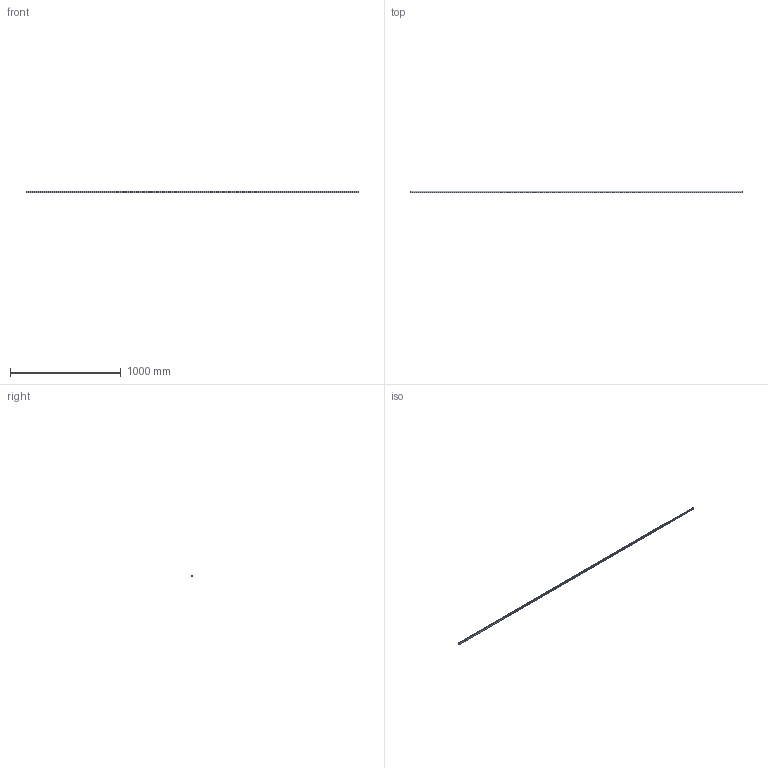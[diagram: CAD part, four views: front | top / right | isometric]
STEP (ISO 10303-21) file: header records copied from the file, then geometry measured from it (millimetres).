
FILE_DESCRIPTION (( 'STEP AP214' ), '1' );
FILE_NAME ('FABER - FL1.step', '2017-04-06T07:46:08', ( '' ), ( '' ), 'SwSTEP 2.0', 'SolidWorks 2016', '' );
FILE_SCHEMA (( 'AUTOMOTIVE_DESIGN' ));
Length unit declared in the file: millimetre
Products named in the file (1): FABER - FL1
Bounding box: 3000 x 11.97 x 16.7 mm (x, y, z)
Volume: 448099.5 mm3; surface area: 202138.7 mm2
Topology: 1 solids, 1 shells, 12 faces, 30 edges, 20 vertices
Faces by surface type: plane 11, cylinder 1
Entity records: 390 total; most frequent: CARTESIAN_POINT 63, ORIENTED_EDGE 60, DIRECTION 58, EDGE_CURVE 30, LINE 28, VECTOR 28, VERTEX_POINT 20, AXIS2_PLACEMENT_3D 15
